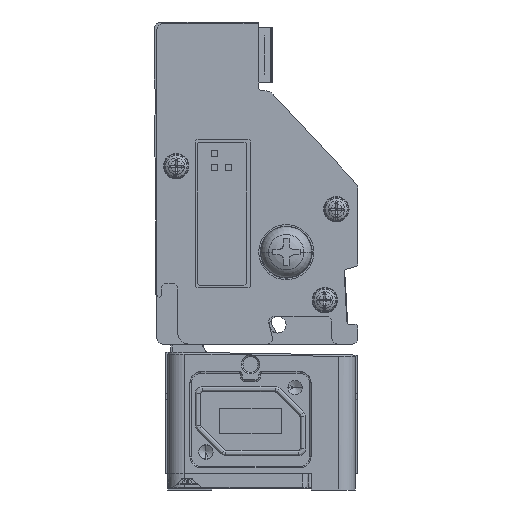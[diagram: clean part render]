
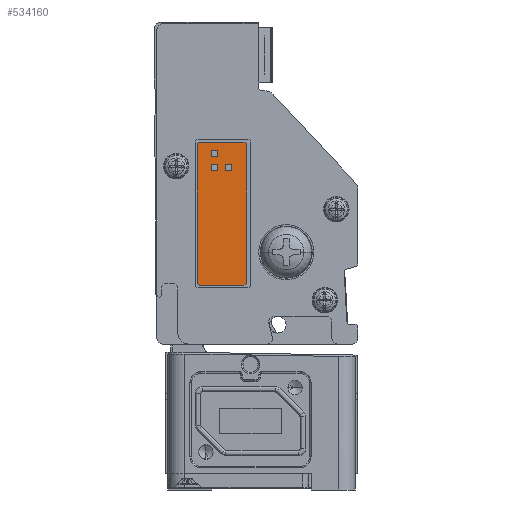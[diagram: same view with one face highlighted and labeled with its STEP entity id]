
A CAD part, front view. The second image highlights one B-rep face of the part: STEP entity #534160.
In plain terms, the highlighted planar face has unit normal (0, -1, 0).
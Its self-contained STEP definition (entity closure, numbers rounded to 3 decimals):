
#532390=CARTESIAN_POINT('',(9.8,-939.8,
50.2));
#532400=DIRECTION('',(0.,-1.,0.));
#532410=DIRECTION('',(1.,0.,0.));
#532420=AXIS2_PLACEMENT_3D('',#532390,#532400,#532410);
#532430=PLANE('',#532420);
#532440=CARTESIAN_POINT('',(5.8,-939.8,
62.7));
#532450=DIRECTION('',(0.,-1.,0.));
#532460=DIRECTION('',(0.,0.,1.));
#532470=AXIS2_PLACEMENT_3D('',#532440,#532450,#532460);
#532480=CIRCLE('',#532470,0.5);
#532490=CARTESIAN_POINT('',(5.8,-939.8,
63.2));
#532500=VERTEX_POINT('',#532490);
#532510=CARTESIAN_POINT('',(5.3,-939.8,
62.7));
#532520=VERTEX_POINT('',#532510);
#532530=EDGE_CURVE('',#532500,#532520,#532480,.T.);
#532540=ORIENTED_EDGE('',*,*,#532530,.T.);
#532550=CARTESIAN_POINT('',(5.8,-939.8,
63.2));
#532560=DIRECTION('',(1.,0.,0.));
#532570=VECTOR('',#532560,1.);
#532580=LINE('',#532550,#532570);
#532590=CARTESIAN_POINT('',(13.8,-939.8,
63.2));
#532600=VERTEX_POINT('',#532590);
#532610=EDGE_CURVE('',#532500,#532600,#532580,.T.);
#532620=ORIENTED_EDGE('',*,*,#532610,.F.);
#532630=CARTESIAN_POINT('',(13.8,-939.8,
62.7));
#532640=DIRECTION('',(0.,-1.,0.));
#532650=DIRECTION('',(0.,0.,1.));
#532660=AXIS2_PLACEMENT_3D('',#532630,#532640,#532650);
#532670=CIRCLE('',#532660,0.5);
#532680=CARTESIAN_POINT('',(14.3,-939.8,
62.7));
#532690=VERTEX_POINT('',#532680);
#532700=EDGE_CURVE('',#532690,#532600,#532670,.T.);
#532710=ORIENTED_EDGE('',*,*,#532700,.T.);
#532720=CARTESIAN_POINT('',(14.3,-939.8,
62.7));
#532730=DIRECTION('',(0.,0.,-1.));
#532740=VECTOR('',#532730,1.);
#532750=LINE('',#532720,#532740);
#532760=CARTESIAN_POINT('',(14.3,-939.8,
37.7));
#532770=VERTEX_POINT('',#532760);
#532780=EDGE_CURVE('',#532690,#532770,#532750,.T.);
#532790=ORIENTED_EDGE('',*,*,#532780,.F.);
#532800=CARTESIAN_POINT('',(13.8,-939.8,
37.7));
#532810=DIRECTION('',(0.,-1.,0.));
#532820=DIRECTION('',(0.,0.,1.));
#532830=AXIS2_PLACEMENT_3D('',#532800,#532810,#532820);
#532840=CIRCLE('',#532830,0.5);
#532850=CARTESIAN_POINT('',(13.8,-939.8,
37.2));
#532860=VERTEX_POINT('',#532850);
#532870=EDGE_CURVE('',#532860,#532770,#532840,.T.);
#532880=ORIENTED_EDGE('',*,*,#532870,.T.);
#532890=CARTESIAN_POINT('',(13.8,-939.8,
37.2));
#532900=DIRECTION('',(-1.,0.,0.));
#532910=VECTOR('',#532900,1.);
#532920=LINE('',#532890,#532910);
#532930=CARTESIAN_POINT('',(5.8,-939.8,
37.2));
#532940=VERTEX_POINT('',#532930);
#532950=EDGE_CURVE('',#532860,#532940,#532920,.T.);
#532960=ORIENTED_EDGE('',*,*,#532950,.F.);
#532970=CARTESIAN_POINT('',(5.8,-939.8,
37.7));
#532980=DIRECTION('',(0.,-1.,0.));
#532990=DIRECTION('',(0.,0.,1.));
#533000=AXIS2_PLACEMENT_3D('',#532970,#532980,#532990);
#533010=CIRCLE('',#533000,0.5);
#533020=CARTESIAN_POINT('',(5.3,-939.8,
37.7));
#533030=VERTEX_POINT('',#533020);
#533040=EDGE_CURVE('',#533030,#532940,#533010,.T.);
#533050=ORIENTED_EDGE('',*,*,#533040,.T.);
#533060=CARTESIAN_POINT('',(5.3,-939.8,
37.7));
#533070=DIRECTION('',(0.,0.,1.));
#533080=VECTOR('',#533070,1.);
#533090=LINE('',#533060,#533080);
#533100=EDGE_CURVE('',#533030,#532520,#533090,.T.);
#533110=ORIENTED_EDGE('',*,*,#533100,.F.);
#533120=EDGE_LOOP('',(#533110,#533050,#532960,#532880,#532790,#532710,
#532620,#532540));
#533130=FACE_OUTER_BOUND('',#533120,.T.);
#533140=CARTESIAN_POINT('',(9.8,-939.8,
58.089));
#533150=DIRECTION('',(-1.,0.,0.));
#533160=VECTOR('',#533150,1.);
#533170=LINE('',#533140,#533160);
#533180=CARTESIAN_POINT('',(11.605,-939.8,
58.089));
#533190=VERTEX_POINT('',#533180);
#533200=CARTESIAN_POINT('',(10.506,-939.8,
58.089));
#533210=VERTEX_POINT('',#533200);
#533220=EDGE_CURVE('',#533190,#533210,#533170,.T.);
#533230=ORIENTED_EDGE('',*,*,#533220,.T.);
#533240=CARTESIAN_POINT('',(11.605,-939.8,
50.2));
#533250=DIRECTION('',(0.,0.,-1.));
#533260=VECTOR('',#533250,1.);
#533270=LINE('',#533240,#533260);
#533280=CARTESIAN_POINT('',(11.605,-939.8,
59.188));
#533290=VERTEX_POINT('',#533280);
#533300=EDGE_CURVE('',#533290,#533190,#533270,.T.);
#533310=ORIENTED_EDGE('',*,*,#533300,.T.);
#533320=CARTESIAN_POINT('',(9.8,-939.8,
59.188));
#533330=DIRECTION('',(1.,0.,0.));
#533340=VECTOR('',#533330,1.);
#533350=LINE('',#533320,#533340);
#533360=CARTESIAN_POINT('',(10.506,-939.8,
59.188));
#533370=VERTEX_POINT('',#533360);
#533380=EDGE_CURVE('',#533370,#533290,#533350,.T.);
#533390=ORIENTED_EDGE('',*,*,#533380,.T.);
#533400=CARTESIAN_POINT('',(10.506,-939.8,
50.2));
#533410=DIRECTION('',(0.,0.,1.));
#533420=VECTOR('',#533410,1.);
#533430=LINE('',#533400,#533420);
#533440=EDGE_CURVE('',#533210,#533370,#533430,.T.);
#533450=ORIENTED_EDGE('',*,*,#533440,.T.);
#533460=EDGE_LOOP('',(#533450,#533390,#533310,#533230));
#533470=FACE_BOUND('',#533460,.T.);
#533480=CARTESIAN_POINT('',(9.094,-939.8,
50.2));
#533490=DIRECTION('',(0.,0.,-1.));
#533500=VECTOR('',#533490,1.);
#533510=LINE('',#533480,#533500);
#533520=CARTESIAN_POINT('',(9.094,-939.8,
59.188));
#533530=VERTEX_POINT('',#533520);
#533540=CARTESIAN_POINT('',(9.094,-939.8,
58.089));
#533550=VERTEX_POINT('',#533540);
#533560=EDGE_CURVE('',#533530,#533550,#533510,.T.);
#533570=ORIENTED_EDGE('',*,*,#533560,.T.);
#533580=CARTESIAN_POINT('',(9.8,-939.8,
59.188));
#533590=DIRECTION('',(1.,0.,0.));
#533600=VECTOR('',#533590,1.);
#533610=LINE('',#533580,#533600);
#533620=CARTESIAN_POINT('',(7.995,-939.8,
59.188));
#533630=VERTEX_POINT('',#533620);
#533640=EDGE_CURVE('',#533630,#533530,#533610,.T.);
#533650=ORIENTED_EDGE('',*,*,#533640,.T.);
#533660=CARTESIAN_POINT('',(7.995,-939.8,
50.2));
#533670=DIRECTION('',(0.,0.,1.));
#533680=VECTOR('',#533670,1.);
#533690=LINE('',#533660,#533680);
#533700=CARTESIAN_POINT('',(7.995,-939.8,
58.089));
#533710=VERTEX_POINT('',#533700);
#533720=EDGE_CURVE('',#533710,#533630,#533690,.T.);
#533730=ORIENTED_EDGE('',*,*,#533720,.T.);
#533740=CARTESIAN_POINT('',(9.8,-939.8,
58.089));
#533750=DIRECTION('',(-1.,0.,0.));
#533760=VECTOR('',#533750,1.);
#533770=LINE('',#533740,#533760);
#533780=EDGE_CURVE('',#533550,#533710,#533770,.T.);
#533790=ORIENTED_EDGE('',*,*,#533780,.T.);
#533800=EDGE_LOOP('',(#533790,#533730,#533650,#533570));
#533810=FACE_BOUND('',#533800,.T.);
#533820=CARTESIAN_POINT('',(9.8,-939.8,
61.7));
#533830=DIRECTION('',(1.,0.,0.));
#533840=VECTOR('',#533830,1.);
#533850=LINE('',#533820,#533840);
#533860=CARTESIAN_POINT('',(7.995,-939.8,
61.7));
#533870=VERTEX_POINT('',#533860);
#533880=CARTESIAN_POINT('',(9.094,-939.8,
61.7));
#533890=VERTEX_POINT('',#533880);
#533900=EDGE_CURVE('',#533870,#533890,#533850,.T.);
#533910=ORIENTED_EDGE('',*,*,#533900,.T.);
#533920=CARTESIAN_POINT('',(7.995,-939.8,
50.2));
#533930=DIRECTION('',(0.,0.,1.));
#533940=VECTOR('',#533930,1.);
#533950=LINE('',#533920,#533940);
#533960=CARTESIAN_POINT('',(7.995,-939.8,
60.601));
#533970=VERTEX_POINT('',#533960);
#533980=EDGE_CURVE('',#533970,#533870,#533950,.T.);
#533990=ORIENTED_EDGE('',*,*,#533980,.T.);
#534000=CARTESIAN_POINT('',(9.8,-939.8,
60.601));
#534010=DIRECTION('',(-1.,0.,0.));
#534020=VECTOR('',#534010,1.);
#534030=LINE('',#534000,#534020);
#534040=CARTESIAN_POINT('',(9.094,-939.8,
60.601));
#534050=VERTEX_POINT('',#534040);
#534060=EDGE_CURVE('',#534050,#533970,#534030,.T.);
#534070=ORIENTED_EDGE('',*,*,#534060,.T.);
#534080=CARTESIAN_POINT('',(9.094,-939.8,
50.2));
#534090=DIRECTION('',(0.,0.,-1.));
#534100=VECTOR('',#534090,1.);
#534110=LINE('',#534080,#534100);
#534120=EDGE_CURVE('',#533890,#534050,#534110,.T.);
#534130=ORIENTED_EDGE('',*,*,#534120,.T.);
#534140=EDGE_LOOP('',(#534130,#534070,#533990,#533910));
#534150=FACE_BOUND('',#534140,.T.);
#534160=ADVANCED_FACE('',(#533130,#533470,#533810,#534150),#532430,.T.);
